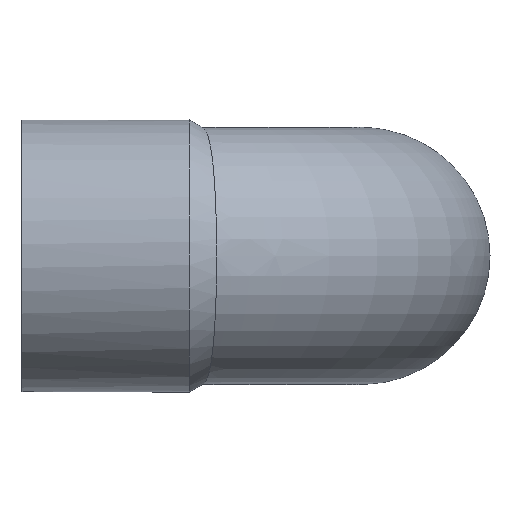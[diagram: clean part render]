
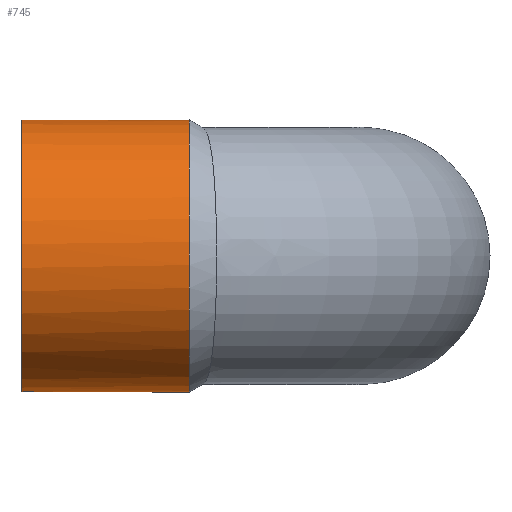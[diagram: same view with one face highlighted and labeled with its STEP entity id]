
A CAD part, front view. The second image highlights one B-rep face of the part: STEP entity #745.
In plain terms, the highlighted cylindrical face has radius 22.25 mm (diameter 44.5 mm), a full revolution.
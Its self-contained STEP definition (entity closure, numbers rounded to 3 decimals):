
#73=CARTESIAN_POINT('',(10.03,-18.45,0.));
#74=VERTEX_POINT('',#73);
#75=CARTESIAN_POINT('',(13.535,-26.152,16.835));
#76=VERTEX_POINT('',#75);
#77=CARTESIAN_POINT('',(10.03,-18.45,0.));
#78=CARTESIAN_POINT('',(10.03,-18.45,0.057));
#79=CARTESIAN_POINT('',(10.03,-18.45,0.113));
#80=CARTESIAN_POINT('',(10.03,-18.451,0.17));
#81=CARTESIAN_POINT('',(10.035,-18.463,1.77));
#82=CARTESIAN_POINT('',(10.105,-18.65,3.365));
#83=CARTESIAN_POINT('',(10.238,-18.996,4.899));
#84=CARTESIAN_POINT('',(10.37,-19.338,6.413));
#85=CARTESIAN_POINT('',(10.562,-19.834,7.872));
#86=CARTESIAN_POINT('',(10.817,-20.464,9.251));
#87=CARTESIAN_POINT('',(10.941,-20.77,9.921));
#88=CARTESIAN_POINT('',(11.081,-21.111,10.575));
#89=CARTESIAN_POINT('',(11.234,-21.47,11.193));
#90=CARTESIAN_POINT('',(11.677,-22.519,12.995));
#91=CARTESIAN_POINT('',(12.223,-23.737,14.505));
#92=CARTESIAN_POINT('',(12.881,-24.98,15.746));
#93=CARTESIAN_POINT('',(13.088,-25.371,16.136));
#94=CARTESIAN_POINT('',(13.306,-25.763,16.499));
#95=CARTESIAN_POINT('',(13.535,-26.152,16.835));
#96=B_SPLINE_CURVE_WITH_KNOTS('',3,(#77,#78,#79,#80,#81,#82,#83,#84,#85,#86,#87,#88,#89,#90,#91,#92,#93,#94,#95),.UNSPECIFIED.,.F.,.U.,(4,3,3,3,3,3,4),(-7.44,-7.426,-7.037,-6.654,-6.468,-5.924,-5.753),.UNSPECIFIED.);
#97=EDGE_CURVE('',#74,#76,#96,.T.);
#118=CARTESIAN_POINT('',(13.535,-26.152,-16.835));
#119=VERTEX_POINT('',#118);
#139=CARTESIAN_POINT('',(13.535,-26.152,-16.835));
#140=CARTESIAN_POINT('',(13.439,-25.99,-16.695));
#141=CARTESIAN_POINT('',(13.346,-25.828,-16.551));
#142=CARTESIAN_POINT('',(13.255,-25.666,-16.402));
#143=CARTESIAN_POINT('',(12.816,-24.885,-15.687));
#144=CARTESIAN_POINT('',(12.426,-24.107,-14.871));
#145=CARTESIAN_POINT('',(12.078,-23.368,-13.952));
#146=CARTESIAN_POINT('',(11.923,-23.038,-13.542));
#147=CARTESIAN_POINT('',(11.776,-22.715,-13.112));
#148=CARTESIAN_POINT('',(11.638,-22.403,-12.66));
#149=CARTESIAN_POINT('',(11.501,-22.096,-12.217));
#150=CARTESIAN_POINT('',(11.376,-21.805,-11.762));
#151=CARTESIAN_POINT('',(11.259,-21.531,-11.297));
#152=CARTESIAN_POINT('',(10.924,-20.742,-9.957));
#153=CARTESIAN_POINT('',(10.666,-20.093,-8.534));
#154=CARTESIAN_POINT('',(10.472,-19.598,-7.056));
#155=CARTESIAN_POINT('',(10.305,-19.173,-5.783));
#156=CARTESIAN_POINT('',(10.187,-18.862,-4.467));
#157=CARTESIAN_POINT('',(10.115,-18.674,-3.147));
#158=CARTESIAN_POINT('',(10.058,-18.524,-2.101));
#159=CARTESIAN_POINT('',(10.03,-18.45,-1.049));
#160=CARTESIAN_POINT('',(10.03,-18.45,0.));
#161=B_SPLINE_CURVE_WITH_KNOTS('',3,(#139,#140,#141,#142,#143,#144,#145,#146,#147,#148,#149,#150,#151,#152,#153,#154,#155,#156,#157,#158,#159,#160),.UNSPECIFIED.,.F.,.U.,(4,3,3,3,3,3,3,4),(-9.005,-8.943,-8.649,-8.517,-8.388,-8.015,-7.694,-7.44),.UNSPECIFIED.);
#162=EDGE_CURVE('',#119,#74,#161,.T.);
#718=CARTESIAN_POINT('',(-0.133,-40.7,0.0));
#719=DIRECTION('',(-1.0,0.0,0.0));
#720=DIRECTION('',(0.0,-1.0,0.0));
#721=AXIS2_PLACEMENT_3D('',#718,#719,#720);
#722=CYLINDRICAL_SURFACE('',#721,22.25);
#723=ORIENTED_EDGE('',*,*,#162,.F.);
#724=CARTESIAN_POINT('',(13.535,-40.7,0.0));
#725=DIRECTION('',(-1.0,0.0,0.0));
#726=DIRECTION('',(0.0,-1.0,0.0));
#727=AXIS2_PLACEMENT_3D('',#724,#725,#726);
#728=CIRCLE('',#727,22.25);
#729=EDGE_CURVE('',#119,#76,#728,.T.);
#730=ORIENTED_EDGE('',*,*,#729,.T.);
#731=ORIENTED_EDGE('',*,*,#97,.F.);
#732=EDGE_LOOP('',(#723,#730,#731));
#733=FACE_OUTER_BOUND('',#732,.T.);
#734=CARTESIAN_POINT('',(-13.8,-56.433,15.733));
#735=VERTEX_POINT('',#734);
#736=CARTESIAN_POINT('',(-13.8,-40.7,0.0));
#737=DIRECTION('',(-1.0,0.0,0.0));
#738=DIRECTION('',(0.0,-1.0,0.0));
#739=AXIS2_PLACEMENT_3D('',#736,#737,#738);
#740=CIRCLE('',#739,22.25);
#741=EDGE_CURVE('',#735,#735,#740,.T.);
#742=ORIENTED_EDGE('',*,*,#741,.F.);
#743=EDGE_LOOP('',(#742));
#744=FACE_BOUND('',#743,.T.);
#745=ADVANCED_FACE('',(#733,#744),#722,.T.);
